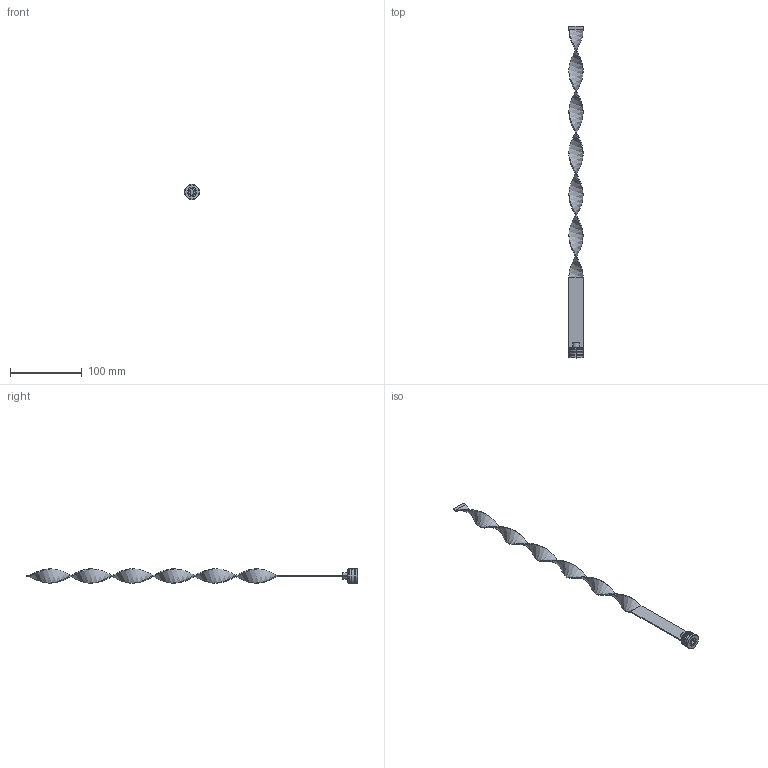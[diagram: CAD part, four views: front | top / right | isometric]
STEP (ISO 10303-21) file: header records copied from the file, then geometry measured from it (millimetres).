
FILE_DESCRIPTION (( 'STEP AP203' ), '1' );
FILE_NAME ('RLS-20Fx450.STEP', '2015-12-10T14:34:14', ( 'Balzi' ), ( '' ), 'SwSTEP 2.0', 'SolidWorks 2015', '' );
FILE_SCHEMA (( 'CONFIG_CONTROL_DESIGN' ));
Length unit declared in the file: millimetre
Products named in the file (1): RLS-20Fx450
Bounding box: 21.5 x 464 x 21.5 mm (x, y, z)
Volume: 17831.1 mm3; surface area: 22089.4 mm2
Topology: 1 solids, 1 shells, 83 faces, 193 edges, 117 vertices
Faces by surface type: plane 35, cone 19, cylinder 17, torus 8, bspline 4
Entity records: 5005 total; most frequent: CARTESIAN_POINT 3040, DIRECTION 406, ORIENTED_EDGE 386, EDGE_CURVE 193, AXIS2_PLACEMENT_3D 151, VERTEX_POINT 117, VECTOR 104, LINE 104
